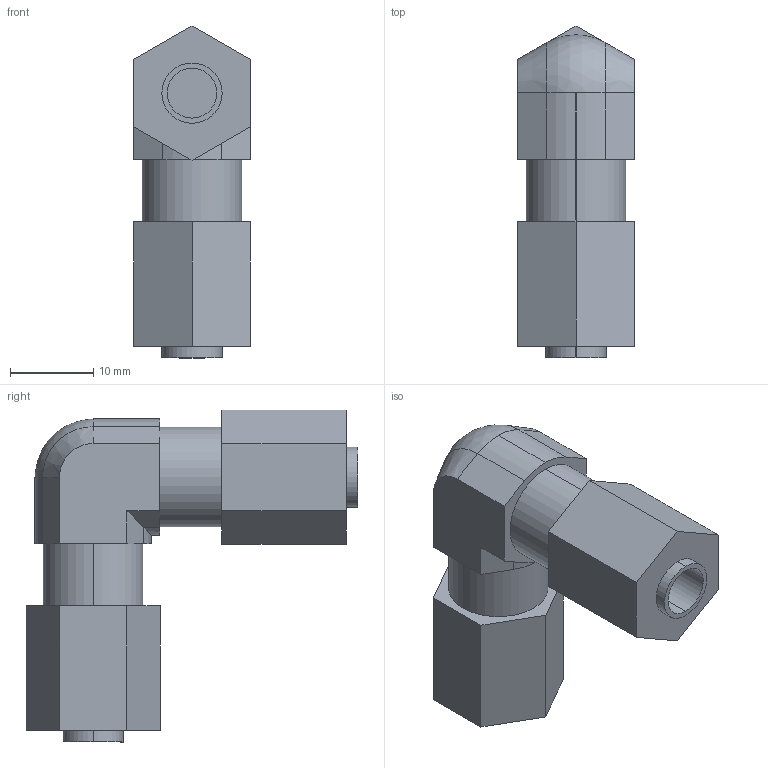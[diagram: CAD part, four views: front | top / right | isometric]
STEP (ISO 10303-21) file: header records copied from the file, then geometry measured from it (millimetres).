
FILE_DESCRIPTION(/* description */ ('SolidWorks IGES FILE using analytic representation for surfaces '),/* implementation_level */ '2;1');
FILE_NAME(/* name */ 'FZ-10-6.step',/* time_stamp */ '2025-08-12T14:37:05+09:00',/* author */ (''),/* organization */ (''),/* preprocessor_version */ 'ST-DEVELOPER v20.1',/* originating_system */ 'Autodesk Translation Framework v14.10.0.0',/* authorisation */ '');
FILE_SCHEMA (('AUTOMOTIVE_DESIGN { 1 0 10303 214 3 1 1 }'));
Length unit declared in the file: millimetre
Products named in the file (2): (未保存); KLA06-000E
Assembly tree (1 placements, depth 2):
  (未保存)
    KLA06-000E
Bounding box: 14 x 39.98 x 39.98 mm (x, y, z)
Surface area: 4058.5 mm2 (no closed solid volume)
Topology: 0 solids, 52 shells, 52 faces, 226 edges, 226 vertices
Faces by surface type: plane 32, cylinder 17, cone 2, sphere 1
Entity records: 2597 total; most frequent: CARTESIAN_POINT 591, DIRECTION 392, VERTEX_POINT 226, EDGE_CURVE 226, ORIENTED_EDGE 226, LINE 166, VECTOR 166, AXIS2_PLACEMENT_3D 113
